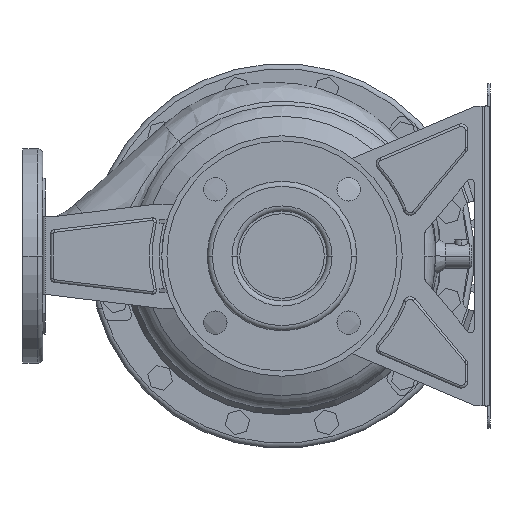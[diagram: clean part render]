
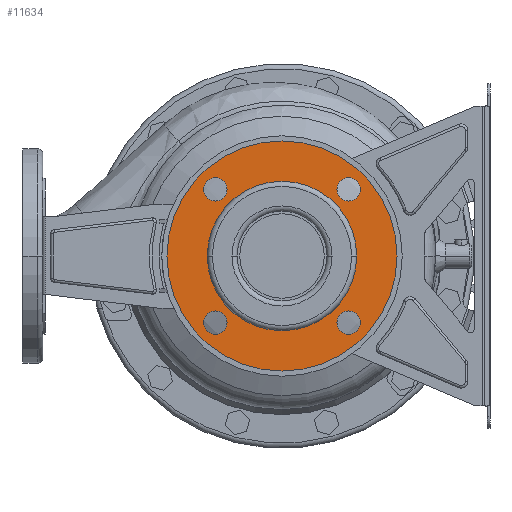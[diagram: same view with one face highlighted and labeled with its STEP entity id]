
A CAD part, left-side view. The second image highlights one B-rep face of the part: STEP entity #11634.
In plain terms, the highlighted planar face has unit normal (-1, 0, 0).
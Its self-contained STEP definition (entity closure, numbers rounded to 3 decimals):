
#10967=CARTESIAN_POINT('',(12.,0.,0.));
#10968=DIRECTION('',(-1.,0.,0.));
#10969=DIRECTION('',(0.,1.,0.));
#10970=AXIS2_PLACEMENT_3D('',#10967,#10968,#10969);
#10975=CARTESIAN_POINT('',(12.,0.,0.));
#10976=DIRECTION('',(1.,0.,0.));
#10977=DIRECTION('',(0.,1.,0.));
#10978=AXIS2_PLACEMENT_3D('',#10975,#10976,#10977);
#10983=CARTESIAN_POINT('',(12.,-51.265,51.265));
#10984=DIRECTION('',(1.,0.,0.));
#10985=DIRECTION('',(0.,1.,0.));
#10986=AXIS2_PLACEMENT_3D('',#10983,#10984,#10985);
#10991=CARTESIAN_POINT('',(12.,-51.265,51.265));
#10992=DIRECTION('',(1.,0.,0.));
#10993=DIRECTION('',(0.,-1.,0.));
#10994=AXIS2_PLACEMENT_3D('',#10991,#10992,#10993);
#10999=CARTESIAN_POINT('',(12.,-51.265,-51.265));
#11000=DIRECTION('',(1.,0.,0.));
#11001=DIRECTION('',(0.,0.,1.));
#11002=AXIS2_PLACEMENT_3D('',#10999,#11000,#11001);
#11007=CARTESIAN_POINT('',(12.,-51.265,-51.265));
#11008=DIRECTION('',(1.,0.,0.));
#11009=DIRECTION('',(0.,0.,-1.));
#11010=AXIS2_PLACEMENT_3D('',#11007,#11008,#11009);
#11015=CARTESIAN_POINT('',(12.,51.265,-51.265));
#11016=DIRECTION('',(1.,0.,0.));
#11017=DIRECTION('',(0.,-1.,0.));
#11018=AXIS2_PLACEMENT_3D('',#11015,#11016,#11017);
#11023=CARTESIAN_POINT('',(12.,51.265,-51.265));
#11024=DIRECTION('',(1.,0.,0.));
#11025=DIRECTION('',(0.,1.,0.));
#11026=AXIS2_PLACEMENT_3D('',#11023,#11024,#11025);
#11031=CARTESIAN_POINT('',(12.,51.265,51.265));
#11032=DIRECTION('',(1.,0.,0.));
#11033=DIRECTION('',(0.,0.,-1.));
#11034=AXIS2_PLACEMENT_3D('',#11031,#11032,#11033);
#11039=CARTESIAN_POINT('',(12.,51.265,51.265));
#11040=DIRECTION('',(1.,0.,0.));
#11041=DIRECTION('',(0.,0.,1.));
#11042=AXIS2_PLACEMENT_3D('',#11039,#11040,#11041);
#11047=CARTESIAN_POINT('',(12.,0.,0.));
#11048=DIRECTION('',(1.,0.,0.));
#11049=DIRECTION('',(0.,1.,0.));
#11050=AXIS2_PLACEMENT_3D('',#11047,#11048,#11049);
#11069=CARTESIAN_POINT('',(12.,0.,0.));
#11070=DIRECTION('',(-1.,0.,0.));
#11071=DIRECTION('',(0.,1.,0.));
#11072=AXIS2_PLACEMENT_3D('',#11069,#11070,#11071);
#11234=CARTESIAN_POINT('',(12.,88.5,0.));
#11236=VERTEX_POINT('',#11234);
#11237=CARTESIAN_POINT('',(12.,57.5,0.));
#11239=VERTEX_POINT('',#11237);
#11266=CARTESIAN_POINT('',(12.,-88.5,0.));
#11268=VERTEX_POINT('',#11266);
#11269=CARTESIAN_POINT('',(12.,-57.5,0.));
#11271=VERTEX_POINT('',#11269);
#11281=CARTESIAN_POINT('',(12.,-42.265,51.265));
#11282=CARTESIAN_POINT('',(12.,-60.265,51.265));
#11283=VERTEX_POINT('',#11281);
#11284=VERTEX_POINT('',#11282);
#11289=CARTESIAN_POINT('',(12.,-51.265,-42.265));
#11290=CARTESIAN_POINT('',(12.,-51.265,-60.265));
#11291=VERTEX_POINT('',#11289);
#11292=VERTEX_POINT('',#11290);
#11297=CARTESIAN_POINT('',(12.,42.265,-51.265));
#11298=CARTESIAN_POINT('',(12.,60.265,-51.265));
#11299=VERTEX_POINT('',#11297);
#11300=VERTEX_POINT('',#11298);
#11305=CARTESIAN_POINT('',(12.,51.265,42.265));
#11306=CARTESIAN_POINT('',(12.,51.265,60.265));
#11307=VERTEX_POINT('',#11305);
#11308=VERTEX_POINT('',#11306);
#11595=CARTESIAN_POINT('',(12.,0.,0.));
#11596=DIRECTION('',(1.,0.,0.));
#11597=DIRECTION('',(0.,-1.,0.));
#11598=AXIS2_PLACEMENT_3D('',#11595,#11596,#11597);
#11599=PLANE('',#11598);
#11600=ORIENTED_EDGE('',*,*,#11588,.F.);
#11601=ORIENTED_EDGE('',*,*,#11577,.T.);
#11602=EDGE_LOOP('',(#11600,#11601));
#11603=FACE_OUTER_BOUND('',#11602,.F.);
#11605=ORIENTED_EDGE('',*,*,#11604,.F.);
#11607=ORIENTED_EDGE('',*,*,#11606,.T.);
#11608=EDGE_LOOP('',(#11605,#11607));
#11609=FACE_BOUND('',#11608,.F.);
#11611=ORIENTED_EDGE('',*,*,#11610,.F.);
#11613=ORIENTED_EDGE('',*,*,#11612,.F.);
#11614=EDGE_LOOP('',(#11611,#11613));
#11615=FACE_BOUND('',#11614,.F.);
#11617=ORIENTED_EDGE('',*,*,#11616,.F.);
#11619=ORIENTED_EDGE('',*,*,#11618,.F.);
#11620=EDGE_LOOP('',(#11617,#11619));
#11621=FACE_BOUND('',#11620,.F.);
#11623=ORIENTED_EDGE('',*,*,#11622,.F.);
#11625=ORIENTED_EDGE('',*,*,#11624,.F.);
#11626=EDGE_LOOP('',(#11623,#11625));
#11627=FACE_BOUND('',#11626,.F.);
#11629=ORIENTED_EDGE('',*,*,#11628,.F.);
#11631=ORIENTED_EDGE('',*,*,#11630,.F.);
#11632=EDGE_LOOP('',(#11629,#11631));
#11633=FACE_BOUND('',#11632,.F.);
#10971=CIRCLE('',#10970,88.5);
#10979=CIRCLE('',#10978,88.5);
#10987=CIRCLE('',#10986,9.);
#10995=CIRCLE('',#10994,9.);
#11003=CIRCLE('',#11002,9.);
#11011=CIRCLE('',#11010,9.);
#11019=CIRCLE('',#11018,9.);
#11027=CIRCLE('',#11026,9.);
#11035=CIRCLE('',#11034,9.);
#11043=CIRCLE('',#11042,9.);
#11051=CIRCLE('',#11050,57.5);
#11073=CIRCLE('',#11072,57.5);
#11577=EDGE_CURVE('',#11236,#11268,#10979,.T.);
#11588=EDGE_CURVE('',#11236,#11268,#10971,.T.);
#11604=EDGE_CURVE('',#11239,#11271,#11051,.T.);
#11606=EDGE_CURVE('',#11239,#11271,#11073,.T.);
#11610=EDGE_CURVE('',#11283,#11284,#10987,.T.);
#11612=EDGE_CURVE('',#11284,#11283,#10995,.T.);
#11616=EDGE_CURVE('',#11291,#11292,#11003,.T.);
#11618=EDGE_CURVE('',#11292,#11291,#11011,.T.);
#11622=EDGE_CURVE('',#11299,#11300,#11019,.T.);
#11624=EDGE_CURVE('',#11300,#11299,#11027,.T.);
#11628=EDGE_CURVE('',#11307,#11308,#11035,.T.);
#11630=EDGE_CURVE('',#11308,#11307,#11043,.T.);
#11634=ADVANCED_FACE('',(#11603,#11609,#11615,#11621,#11627,#11633),#11599,.F.);
